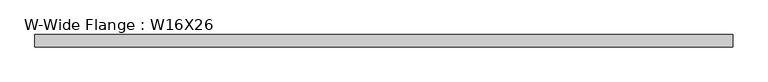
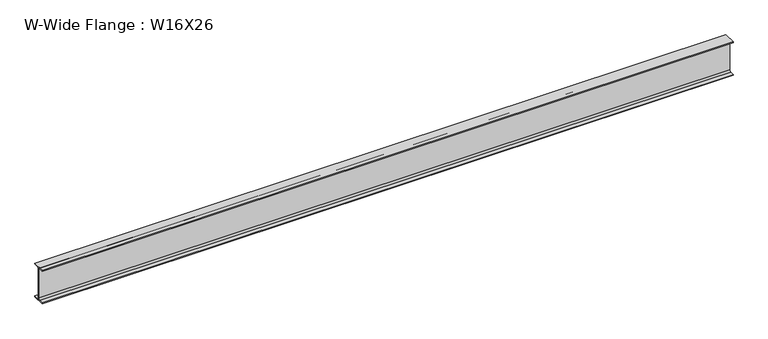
"""IFC4 building model written with IfcOpenShell, lengths in millimetres: beam geometry, W-Wide Flange : W16X26."""

from ifc_helpers import new_model, si_unit, point, frame, frame_2d, origin, place, context, project, spatial, polyline, circle_curve, trimmed, segment, composite_curve, outline, extrude, source, transform, mapped, element, save


def w_wide_flange_w16x26_6db211b0(model_context):
    return source(origin(), model_context, "Body", "SweptSolid", [
        extrude(outline(composite_curve([segment(polyline([(69.85, -190.5496094), (69.85, -199.2808594), (-69.85, -199.2808594), (-69.85, -190.5496094), (-21.43125, -190.5496094)]), True, "CONTINUOUS"), segment(trimmed(circle_curve(frame_2d((-21.43125, -172.2933594)), 18.25625), [point((-21.43125, -190.5496094))], [point((-3.175, -172.2933594))], True, "CARTESIAN"), True, "CONTINUOUS"), segment(polyline([(-3.175, -172.2933594), (-3.175, 172.2933594)]), True, "CONTINUOUS"), segment(trimmed(circle_curve(frame_2d((-21.43125, 172.2933594)), 18.25625), [point((-3.175, 172.2933594))], [point((-21.43125, 190.5496094))], True, "CARTESIAN"), True, "CONTINUOUS"), segment(polyline([(-21.43125, 190.5496094), (-69.85, 190.5496094), (-69.85, 199.2808594), (69.85, 199.2808594), (69.85, 190.5496094), (21.43125, 190.5496094)]), True, "CONTINUOUS"), segment(trimmed(circle_curve(frame_2d((21.43125, 172.2933594)), 18.25625), [point((21.43125, 190.5496094))], [point((3.175, 172.2933594))], True, "CARTESIAN"), True, "CONTINUOUS"), segment(polyline([(3.175, 172.2933594), (3.175, -172.2933594)]), True, "CONTINUOUS"), segment(trimmed(circle_curve(frame_2d((21.43125, -172.2933594)), 18.25625), [point((3.175, -172.2933594))], [point((21.43125, -190.5496094))], True, "CARTESIAN"), True, "CONTINUOUS"), segment(polyline([(21.43125, -190.5496094), (69.85, -190.5496094)]), True, "CONTINUOUS")], self_intersect=False)), frame((-3850.8964119, 0.0, 0.0), z_axis=(1.0, 0.0, 0.0), x_axis=(0.0, 1.0, 0.0)), (0.0, 0.0, 1.0), 7825.9099066),
    ])


if __name__ == "__main__":
    model = new_model("IFC4")
    model_context = context("Model", 3, world=origin())
    ifc_project = project(units=[si_unit("LENGTHUNIT", "METRE", prefix="MILLI")], contexts=[model_context])
    site = spatial("IfcSite", under=ifc_project)
    building = spatial("IfcBuilding", under=site)
    placement = place(None, origin())
    w_wide_flange_w16x26_shape = w_wide_flange_w16x26_6db211b0(model_context)
    element("IfcBeam", 1, ObjectType="W-Wide Flange : W16X26", at=placement, inside=building, context=model_context, shape_type="MappedRepresentation", body=[
        mapped(w_wide_flange_w16x26_shape, transform((0.0, 0.0, 0.0), x_axis=(1.0, 0.0, 0.0), y_axis=(0.0, 1.0, 0.0), z_axis=(0.0, 0.0, 1.0))),
    ])
    save(model, "model.ifc")
